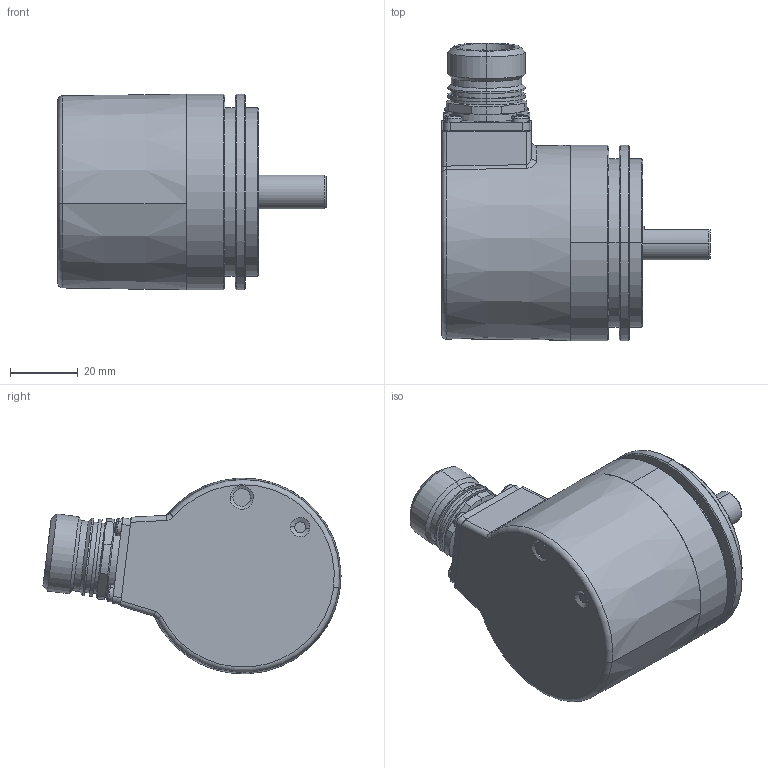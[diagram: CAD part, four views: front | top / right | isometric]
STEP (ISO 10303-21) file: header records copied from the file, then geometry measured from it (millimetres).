
FILE_DESCRIPTION (( 'STEP AP214' ), '1' );
FILE_NAME ('5863.2224.XXXX.STEP', '2008-06-06T06:17:39', ( 'admin' ), ( 'Fritz Kübler GmbH' ), 'SwSTEP 2.0', 'SolidWorks 2007', '' );
FILE_SCHEMA (( 'AUTOMOTIVE_DESIGN' ));
Length unit declared in the file: millimetre
Products named in the file (1): 5863.2224.XXXX
Bounding box: 79.5 x 88.28 x 58 mm (x, y, z)
Surface area: 25312.5 mm2 (no closed solid volume)
Topology: 0 solids, 29 shells, 317 faces, 831 edges, 527 vertices
Faces by surface type: cylinder 131, plane 87, cone 37, sphere 32, torus 24, bspline 6
Entity records: 13466 total; most frequent: CARTESIAN_POINT 2004, DIRECTION 1891, ORIENTED_EDGE 1458, EDGE_CURVE 807, AXIS2_PLACEMENT_3D 800, VERTEX_POINT 527, CIRCLE 488, EDGE_LOOP 364
